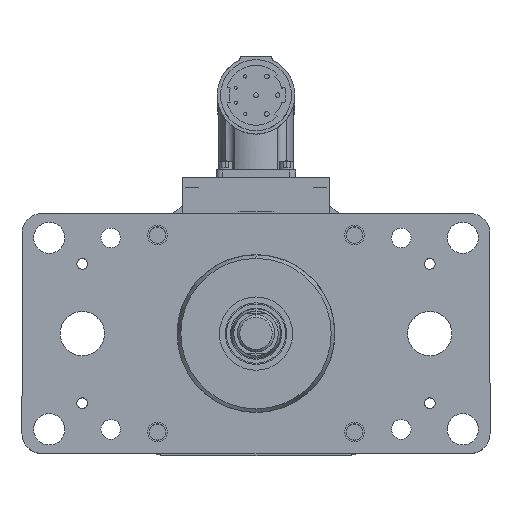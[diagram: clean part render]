
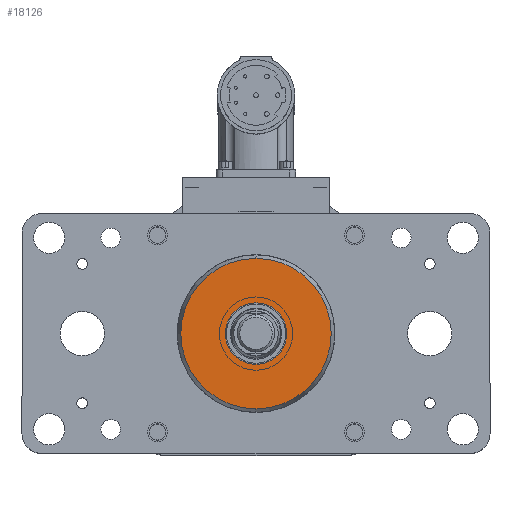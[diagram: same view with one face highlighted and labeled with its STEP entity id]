
A CAD part, top view. The second image highlights one B-rep face of the part: STEP entity #18126.
In plain terms, the highlighted planar face has unit normal (0, 0, 1).
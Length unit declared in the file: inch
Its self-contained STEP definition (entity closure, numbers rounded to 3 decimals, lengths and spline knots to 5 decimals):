
#827 = CARTESIAN_POINT ( 'NONE',  ( -0.39, 0., 0. ) ) ;
#1800 = DIRECTION ( 'NONE',  ( 1., 0., 0. ) ) ;
#1801 = DIRECTION ( 'NONE',  ( 0., 0., 1. ) ) ;
#1802 = CARTESIAN_POINT ( 'NONE',  ( 0., 0., 0. ) ) ;
#1803 = AXIS2_PLACEMENT_3D ( 'NONE', #1802, #1801, #1800 ) ;
#1804 = CIRCLE ( 'NONE', #1803, 0.9545 ) ;
#1809 = CARTESIAN_POINT ( 'NONE',  ( 0.9545, 0., 0. ) ) ;
#1833 = CARTESIAN_POINT ( 'NONE',  ( 0.39, 0., 0. ) ) ;
#1834 = DIRECTION ( 'NONE',  ( 1., 0., 0. ) ) ;
#1849 = DIRECTION ( 'NONE',  ( 0., 0., 1. ) ) ;
#1850 = CARTESIAN_POINT ( 'NONE',  ( 0., 0., 0. ) ) ;
#1851 = AXIS2_PLACEMENT_3D ( 'NONE', #1850, #1849, #1834 ) ;
#1852 = CIRCLE ( 'NONE', #1851, 0.39 ) ;
#4806 = CARTESIAN_POINT ( 'NONE',  ( -0.9545, 0., 0. ) ) ;
#9602 = DIRECTION ( 'NONE',  ( 1., 0., 0. ) ) ;
#9603 = DIRECTION ( 'NONE',  ( 0., 0., 1. ) ) ;
#9604 = CARTESIAN_POINT ( 'NONE',  ( 0., 0., 0. ) ) ;
#9605 = AXIS2_PLACEMENT_3D ( 'NONE', #9604, #9603, #9602 ) ;
#9606 = CIRCLE ( 'NONE', #9605, 0.39 ) ;
#10191 = FACE_BOUND ( 'NONE', #24203, .T. ) ;
#10192 = FACE_OUTER_BOUND ( 'NONE', #18129, .T. ) ;
#10250 = DIRECTION ( 'NONE',  ( 1., 0., 0. ) ) ;
#10251 = DIRECTION ( 'NONE',  ( 0., 0., 1. ) ) ;
#10252 = CARTESIAN_POINT ( 'NONE',  ( -1.273, 1.273, 0. ) ) ;
#10253 = AXIS2_PLACEMENT_3D ( 'NONE', #10252, #10251, #10250 ) ;
#10255 = PLANE ( 'NONE',  #10253 ) ;
#10630 = ORIENTED_EDGE ( 'NONE', *, *, #10632, .T. ) ;
#10632 = EDGE_CURVE ( 'NONE', #23149, #12714, #16219, .T. ) ;
#12659 = VERTEX_POINT ( 'NONE', #827 ) ;
#12714 = VERTEX_POINT ( 'NONE', #1809 ) ;
#12717 = EDGE_CURVE ( 'NONE', #12714, #23149, #1804, .T. ) ;
#12729 = EDGE_CURVE ( 'NONE', #12659, #12730, #1852, .T. ) ;
#12730 = VERTEX_POINT ( 'NONE', #1833 ) ;
#13552 = ORIENTED_EDGE ( 'NONE', *, *, #13553, .F. ) ;
#13553 = EDGE_CURVE ( 'NONE', #12730, #12659, #9606, .T. ) ;
#13555 = ORIENTED_EDGE ( 'NONE', *, *, #12729, .F. ) ;
#16215 = DIRECTION ( 'NONE',  ( 1., 0., 0. ) ) ;
#16216 = DIRECTION ( 'NONE',  ( 0., 0., 1. ) ) ;
#16217 = CARTESIAN_POINT ( 'NONE',  ( 0., 0., 0. ) ) ;
#16218 = AXIS2_PLACEMENT_3D ( 'NONE', #16217, #16216, #16215 ) ;
#16219 = CIRCLE ( 'NONE', #16218, 0.9545 ) ;
#18126 = ADVANCED_FACE ( 'NONE', ( #10192, #10191 ), #10255, .T. ) ;
#18129 = EDGE_LOOP ( 'NONE', ( #10630, #24197 ) ) ;
#23149 = VERTEX_POINT ( 'NONE', #4806 ) ;
#24197 = ORIENTED_EDGE ( 'NONE', *, *, #12717, .T. ) ;
#24203 = EDGE_LOOP ( 'NONE', ( #13552, #13555 ) ) ;
